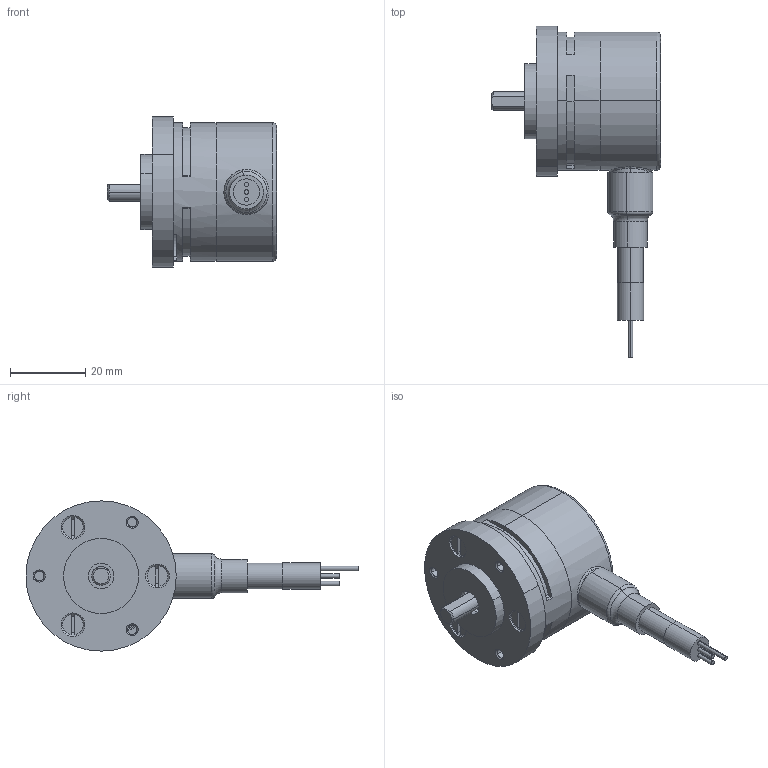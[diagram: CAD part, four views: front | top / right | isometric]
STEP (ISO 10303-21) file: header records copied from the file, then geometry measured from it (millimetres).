
FILE_DESCRIPTION (( 'STEP AP214' ), '1' );
FILE_NAME ('3700.A2X2.XXXX.STEP', '2008-11-25T08:19:25', ( 'admin' ), ( 'Fritz Kübler GmbH' ), 'SwSTEP 2.0', 'SolidWorks 2008', '' );
FILE_SCHEMA (( 'AUTOMOTIVE_DESIGN' ));
Length unit declared in the file: millimetre
Products named in the file (1): 3700.A2X2.XXXX
Bounding box: 45 x 88.4 x 40 mm (x, y, z)
Volume: 21039.8 mm3; surface area: 20850.6 mm2
Topology: 9 solids, 9 shells, 575 faces, 1360 edges, 821 vertices
Faces by surface type: cylinder 241, plane 140, torus 92, cone 48, bspline 29, sphere 25
Entity records: 24289 total; most frequent: CARTESIAN_POINT 4579, DIRECTION 3002, ORIENTED_EDGE 2674, EDGE_CURVE 1337, AXIS2_PLACEMENT_3D 1274, VERTEX_POINT 811, CIRCLE 727, EDGE_LOOP 626
